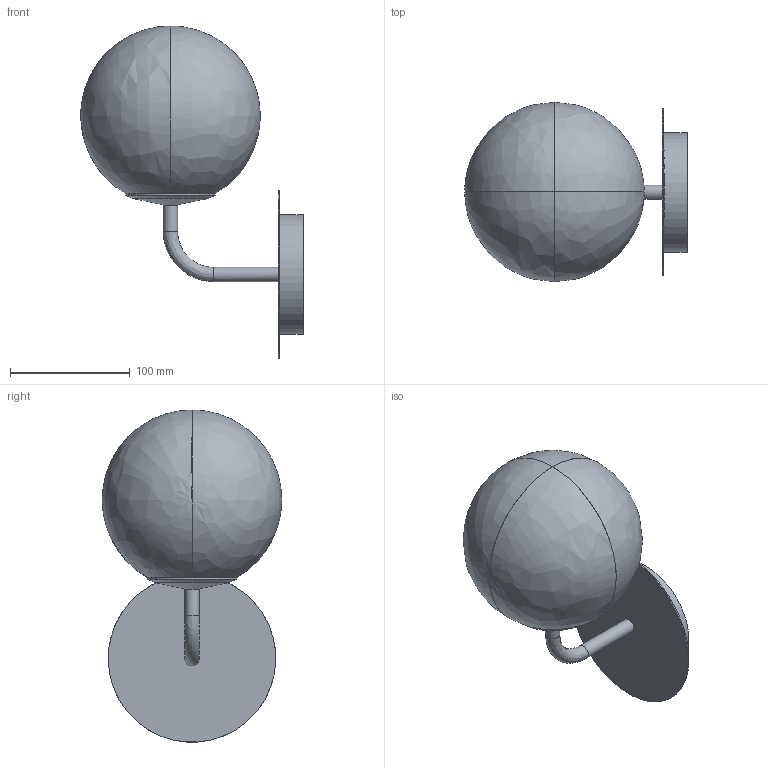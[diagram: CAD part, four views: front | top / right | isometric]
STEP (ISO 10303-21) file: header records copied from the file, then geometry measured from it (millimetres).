
FILE_DESCRIPTION(('FreeCAD Model'),'2;1');
FILE_NAME('Open CASCADE Shape Model','2022-12-21T10:38:59',('Author'),( ''),'Open CASCADE STEP processor 7.6','FreeCAD','Unknown');
FILE_SCHEMA(('AUTOMOTIVE_DESIGN { 1 0 10303 214 1 1 1 1 }'));
Length unit declared in the file: millimetre
Products named in the file (8): Unnamed1; PARMA_A3946180_3D; PARMA_A3946180_3D001; PARMA_A3946180_3D002; PARMA_A3946180_3D003; PARMA_A3946180_3D004; PARMA_A3946180_3D005; PARMA_A3946180_3D006
Assembly tree (7 placements, depth 2):
  Unnamed1
    PARMA_A3946180_3D
    PARMA_A3946180_3D001
    PARMA_A3946180_3D002
    PARMA_A3946180_3D003
    PARMA_A3946180_3D004
    PARMA_A3946180_3D005
    PARMA_A3946180_3D006
Bounding box: 186 x 150 x 277.47 mm (x, y, z)
Volume: 67108.2 mm3; surface area: 211430.2 mm2
Topology: 5 solids, 10 shells, 43 faces, 111 edges, 79 vertices
Faces by surface type: bspline 43
Entity records: 6147 total; most frequent: CARTESIAN_POINT 4484, ORIENTED_EDGE 181, PCURVE 181, DEFINITIONAL_REPRESENTATION 181, DIRECTION 117, B_SPLINE_CURVE_WITH_KNOTS 111, EDGE_CURVE 103, LINE 101
